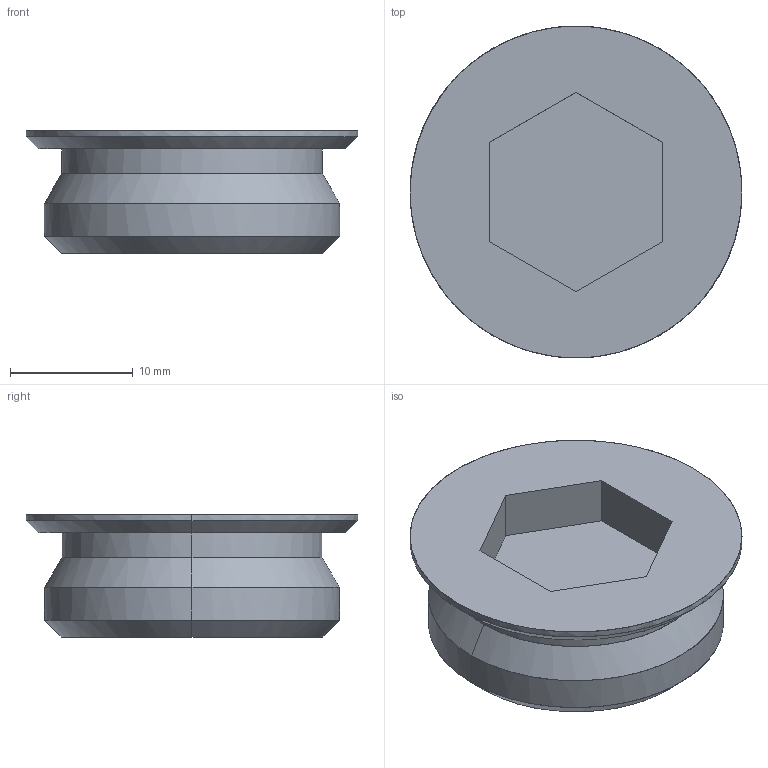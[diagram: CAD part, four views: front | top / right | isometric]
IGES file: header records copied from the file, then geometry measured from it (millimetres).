
Global section: file name: E:\UnigraphicsGraphicData\MISUMI_PRESS-PARTS\IGES\3d_mswzs24-10_00494_r00.igs; native system: NX V5.0; preprocessor: UGS NX IGES V5.0; author: MISUMI; date: 20110105.161530; units: millimetre
Bounding box: 27 x 27 x 10 mm (x, y, z)
Surface area: 2091.4 mm2 (no closed solid volume)
Topology: 0 solids, 0 shells, 22 faces, 124 edges, 124 vertices
Faces by surface type: bspline 22
